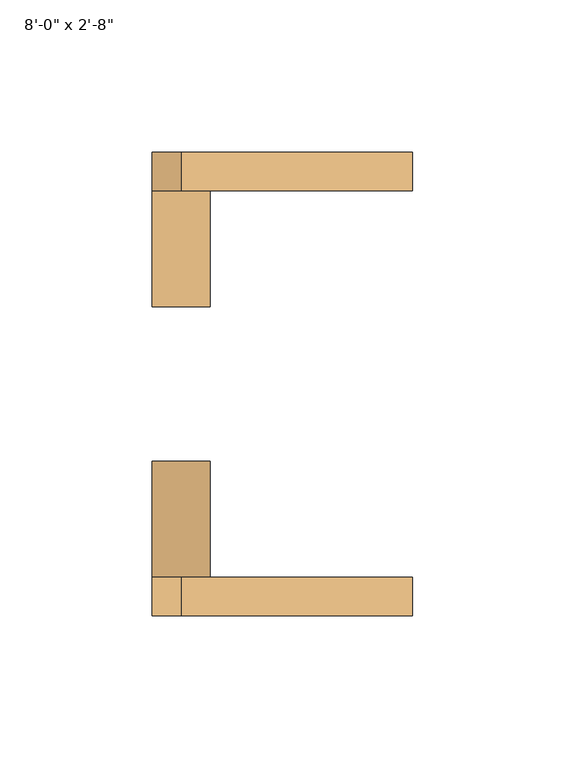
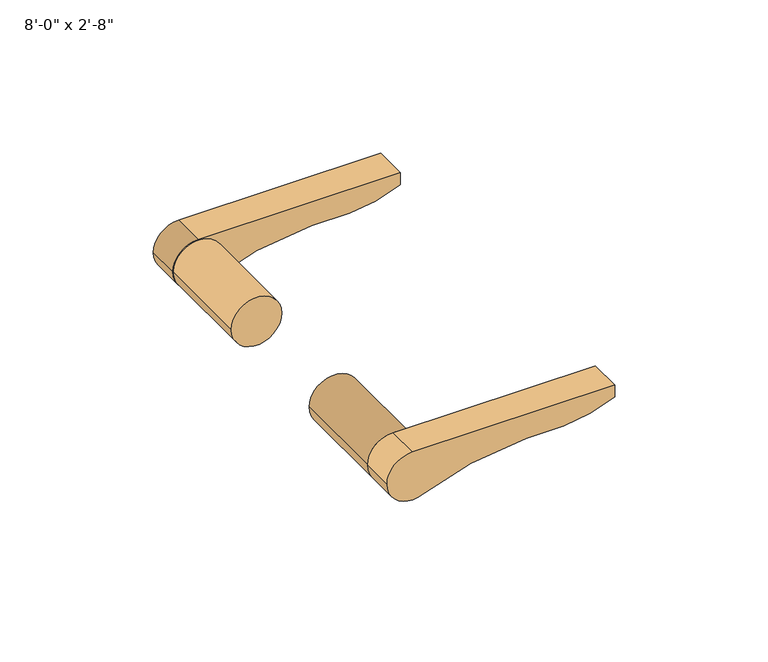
"""IFC4 building model written with IfcOpenShell, lengths in millimetres: door geometry."""

from ifc_helpers import new_model, si_unit, point, frame, frame_2d, origin, place, context, project, spatial, polyline, circle_curve, trimmed, segment, composite_curve, outline, extrude, source, transform, mapped, element, save


def door_de8d7ad8(model_context):
    return source(origin(), model_context, "Body", "SweptSolid", [
        extrude(outline(composite_curve([segment(trimmed(circle_curve(frame_2d((1016.0, -342.9)), 9.525), [point((1016.0, -352.425))], [point((1006.7131627, -340.7833333))], False, "CARTESIAN"), True, "CONTINUOUS"), segment(trimmed(circle_curve(frame_2d((910.8226001, -297.4965958)), 105.2080873), [point((1006.7131627, -340.7833333))], [point((1016.0, -300.0375))], True, "CARTESIAN"), True, "CONTINUOUS"), segment(polyline([(1016.0, -300.0375), (1016.0, -285.8013442)]), True, "CONTINUOUS"), segment(trimmed(circle_curve(frame_2d((1066.7220571, -288.303389)), 50.7837307), [point((1016.0, -285.8013442))], [point((1020.7625, -266.7))], False, "CARTESIAN"), True, "CONTINUOUS"), segment(polyline([(1020.7625, -266.7), (1025.525, -266.7), (1025.525, -342.9)]), True, "CONTINUOUS"), segment(trimmed(circle_curve(frame_2d((1016.0, -342.9)), 9.525), [point((1025.525, -342.9))], [point((1016.0, -352.425))], False, "CARTESIAN"), True, "CONTINUOUS")], self_intersect=False)), frame((0.0, -50.8, 0.0), z_axis=(0.0, 1.0, 0.0), x_axis=(0.0, 0.0, 1.0)), (0.0, 0.0, 1.0), 12.7),
        extrude(outline(composite_curve([segment(trimmed(circle_curve(frame_2d((1016.0, -342.9)), 9.525), [point((1016.0, -352.425))], [point((1006.7131627, -340.7833333))], False, "CARTESIAN"), True, "CONTINUOUS"), segment(trimmed(circle_curve(frame_2d((910.8226001, -297.4965958)), 105.2080873), [point((1006.7131627, -340.7833333))], [point((1016.0, -300.0375))], True, "CARTESIAN"), True, "CONTINUOUS"), segment(polyline([(1016.0, -300.0375), (1016.0, -285.8013442)]), True, "CONTINUOUS"), segment(trimmed(circle_curve(frame_2d((1066.7220571, -288.303389)), 50.7837307), [point((1016.0, -285.8013442))], [point((1020.7625, -266.7))], False, "CARTESIAN"), True, "CONTINUOUS"), segment(polyline([(1020.7625, -266.7), (1025.525, -266.7), (1025.525, -342.9)]), True, "CONTINUOUS"), segment(trimmed(circle_curve(frame_2d((1016.0, -342.9)), 9.525), [point((1025.525, -342.9))], [point((1016.0, -352.425))], False, "CARTESIAN"), True, "CONTINUOUS")], self_intersect=False)), frame((0.0, 88.9, 0.0), z_axis=(0.0, 1.0, 0.0), x_axis=(0.0, 0.0, 1.0)), (0.0, 0.0, 1.0), 12.7),
        extrude(outline(composite_curve([segment(trimmed(circle_curve(frame_2d((1016.0, -342.9)), 9.525), [point((1016.0, -333.375))], [point((1016.0, -352.425))], False, "CARTESIAN"), True, "CONTINUOUS"), segment(trimmed(circle_curve(frame_2d((1016.0, -342.9)), 9.525), [point((1016.0, -352.425))], [point((1016.0, -333.375))], False, "CARTESIAN"), True, "CONTINUOUS")], self_intersect=False)), frame((0.0, 50.8, 0.0), z_axis=(0.0, 1.0, 0.0), x_axis=(0.0, 0.0, 1.0)), (0.0, 0.0, 1.0), 38.1),
        extrude(outline(composite_curve([segment(trimmed(circle_curve(frame_2d((1016.0, -342.9)), 9.525), [point((1016.0, -333.375))], [point((1016.0, -352.425))], False, "CARTESIAN"), True, "CONTINUOUS"), segment(trimmed(circle_curve(frame_2d((1016.0, -342.9)), 9.525), [point((1016.0, -352.425))], [point((1016.0, -333.375))], False, "CARTESIAN"), True, "CONTINUOUS")], self_intersect=False)), frame((0.0, -38.1, 0.0), z_axis=(0.0, 1.0, 0.0), x_axis=(0.0, 0.0, 1.0)), (0.0, 0.0, 1.0), 38.1),
    ])


if __name__ == "__main__":
    model = new_model("IFC4")
    model_context = context("Model", 3, world=origin())
    ifc_project = project(units=[si_unit("LENGTHUNIT", "METRE", prefix="MILLI")], contexts=[model_context])
    site = spatial("IfcSite", under=ifc_project)
    building = spatial("IfcBuilding", under=site)
    placement = place(None, origin())
    door_shape = door_de8d7ad8(model_context)
    element("IfcDoor", 1, ObjectType="Planitar - Single Door_Swapper : 8'-0\" x 2'-8\"", at=placement, inside=building, context=model_context, shape_type="MappedRepresentation", body=[
        mapped(door_shape, transform((0.0, 0.0, 0.0), x_axis=(1.0, 0.0, 0.0), y_axis=(0.0, 1.0, 0.0), z_axis=(0.0, 0.0, 1.0))),
    ])
    save(model, "model.ifc")
